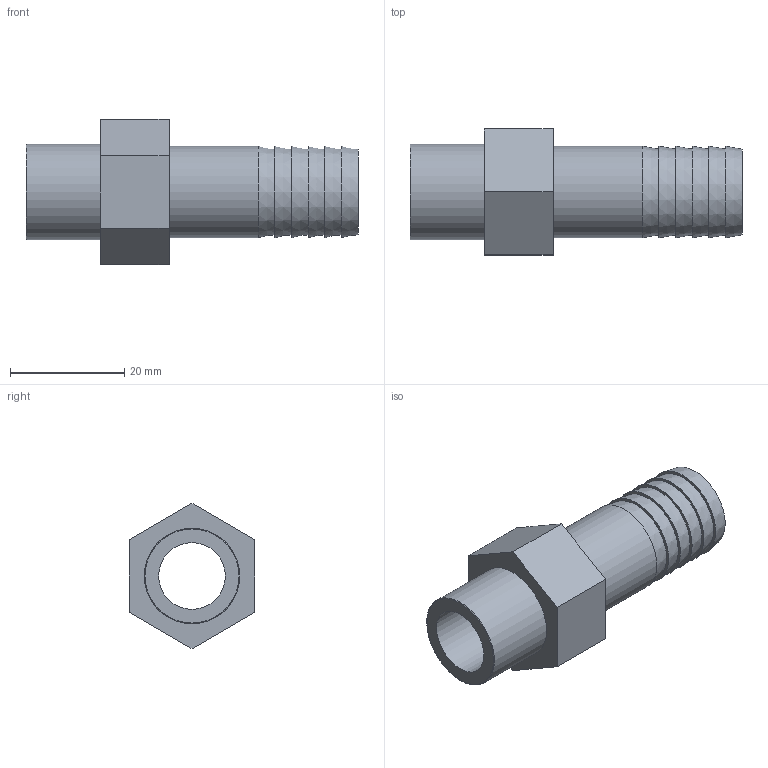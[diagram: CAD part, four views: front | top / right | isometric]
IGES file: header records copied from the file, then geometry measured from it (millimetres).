
Global section: file name: 053601016003.ipt; native system: Autodesk Inventor 2015; preprocessor: unknown; author: KIM; date: 20171207.165523; units: millimetre
Bounding box: 58 x 22 x 25.4 mm (x, y, z)
Volume: 8083.7 mm3; surface area: 6085.6 mm2
Topology: 1 solids, 1 shells, 25 faces, 50 edges, 34 vertices
Faces by surface type: plane 15, cone 6, revolution 2, cylinder 2
Full cylindrical faces by diameter (mm): 16 x1, 16.662 x1
